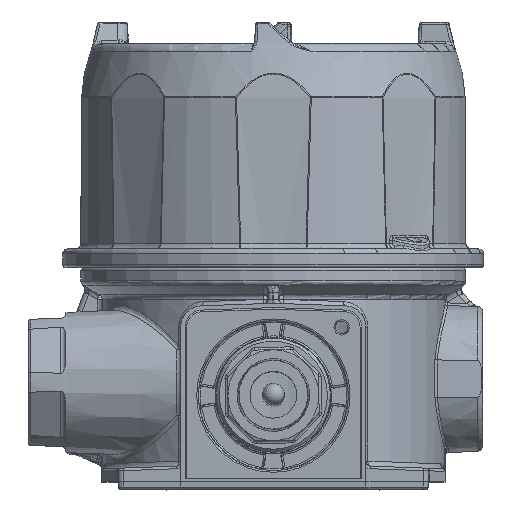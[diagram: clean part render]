
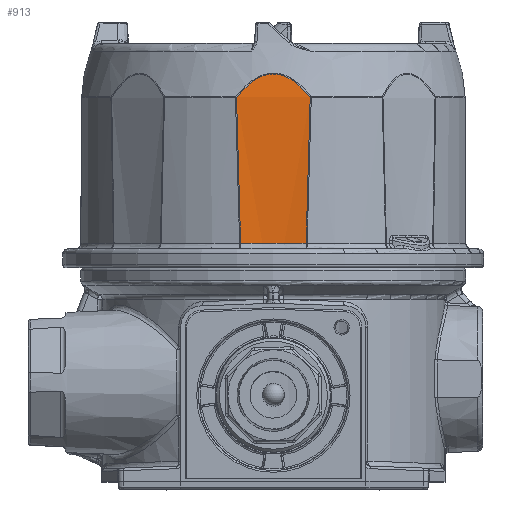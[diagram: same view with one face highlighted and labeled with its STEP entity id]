
A CAD part, top view. The second image highlights one B-rep face of the part: STEP entity #913.
In plain terms, the highlighted conical face has half-angle 0.5 degrees and reference radius 83.16 mm.
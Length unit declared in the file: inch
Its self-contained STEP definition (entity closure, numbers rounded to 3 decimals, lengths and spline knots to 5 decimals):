
#515 = CARTESIAN_POINT ( 'NONE',  ( -0.02303, 4.84485, 2.20639 ) ) ;
#645 = CIRCLE ( 'NONE', #44648, 3.25367 ) ;
#913 = ADVANCED_FACE ( 'NONE', ( #38391 ), #46001, .F. ) ;
#1543 = CARTESIAN_POINT ( 'NONE',  ( -0.39883, 3.43826, 2.24311 ) ) ;
#2126 = B_SPLINE_CURVE_WITH_KNOTS ( 'NONE', 3,
 ( #24983, #48991, #72929, #2937 ),
 .UNSPECIFIED., .F., .F.,
 ( 4, 4 ),
 ( 0., 0.00002 ),
 .UNSPECIFIED. ) ;
#2208 = DIRECTION ( 'NONE',  ( 0., 0., -1. ) ) ;
#2937 = CARTESIAN_POINT ( 'NONE',  ( -0.38206, 2.87145, 2.24611 ) ) ;
#3085 = ORIENTED_EDGE ( 'NONE', *, *, #53729, .T. ) ;
#3246 = CARTESIAN_POINT ( 'NONE',  ( -0.37362, 4.63765, 2.22946 ) ) ;
#3624 = ORIENTED_EDGE ( 'NONE', *, *, #26011, .T. ) ;
#4024 = CARTESIAN_POINT ( 'NONE',  ( -0.28008, 4.72908, 2.21921 ) ) ;
#5858 = VERTEX_POINT ( 'NONE', #31854 ) ;
#6436 = CARTESIAN_POINT ( 'NONE',  ( 0.05421, 4.84065, 2.20685 ) ) ;
#6817 = CARTESIAN_POINT ( 'NONE',  ( -0.10939, 4.82751, 2.2083 ) ) ;
#9983 = ORIENTED_EDGE ( 'NONE', *, *, #12356, .T. ) ;
#10029 = EDGE_CURVE ( 'NONE', #5858, #73823, #2126, .T. ) ;
#10806 = CARTESIAN_POINT ( 'NONE',  ( 0.38207, 2.87205, 2.24611 ) ) ;
#12356 = EDGE_CURVE ( 'NONE', #17371, #76082, #34552, .T. ) ;
#12555 = VERTEX_POINT ( 'NONE', #47650 ) ;
#13099 = CARTESIAN_POINT ( 'NONE',  ( -0.17008, 4.8019, 2.21112 ) ) ;
#13882 = CARTESIAN_POINT ( 'NONE',  ( 0.27897, 4.72997, 2.21911 ) ) ;
#15440 = CARTESIAN_POINT ( 'NONE',  ( -0.42941, 4.57016, 2.23711 ) ) ;
#15489 = CARTESIAN_POINT ( 'NONE',  ( 0.42941, 4.57016, 2.23711 ) ) ;
#17371 = VERTEX_POINT ( 'NONE', #15489 ) ;
#18609 = CARTESIAN_POINT ( 'NONE',  ( -0.04485, 4.84258, 2.20664 ) ) ;
#19009 = CARTESIAN_POINT ( 'NONE',  ( -0.15039, 4.81148, 2.21007 ) ) ;
#19630 = CARTESIAN_POINT ( 'NONE',  ( -0.4145, 4.0042, 2.24011 ) ) ;
#19787 = CARTESIAN_POINT ( 'NONE',  ( 0.16907, 4.80243, 2.21107 ) ) ;
#19915 = DIRECTION ( 'NONE',  ( 0., 1., 0. ) ) ;
#24983 = CARTESIAN_POINT ( 'NONE',  ( -0.38208, 2.87234, 2.2461 ) ) ;
#25304 = CARTESIAN_POINT ( 'NONE',  ( 0.20759, 4.78065, 2.21348 ) ) ;
#25531 = CARTESIAN_POINT ( 'NONE',  ( -0.38208, 2.87234, 2.2461 ) ) ;
#25572 = B_SPLINE_CURVE_WITH_KNOTS ( 'NONE', 3,
 ( #47382, #54451, #10806, #35960 ),
 .UNSPECIFIED., .F., .F.,
 ( 4, 4 ),
 ( 0., 0.00002 ),
 .UNSPECIFIED. ) ;
#25685 = CARTESIAN_POINT ( 'NONE',  ( 0.42941, 4.57016, 2.23711 ) ) ;
#26011 = EDGE_CURVE ( 'NONE', #12555, #32094, #25572, .T. ) ;
#26074 = CARTESIAN_POINT ( 'NONE',  ( 0.08653, 4.83432, 2.20755 ) ) ;
#28008 = CARTESIAN_POINT ( 'NONE',  ( -0.31254, 4.69988, 2.22247 ) ) ;
#28034 = CARTESIAN_POINT ( 'NONE',  ( 0., 5.201, 5.47727 ) ) ;
#28844 = ORIENTED_EDGE ( 'NONE', *, *, #58950, .T. ) ;
#29639 = DIRECTION ( 'NONE',  ( 0., 0., -1. ) ) ;
#29646 = CARTESIAN_POINT ( 'NONE',  ( 0.39883, 3.43826, 2.24311 ) ) ;
#29829 = B_SPLINE_CURVE_WITH_KNOTS ( 'NONE', 3,
 ( #59169, #29646, #64284, #34015 ),
 .UNSPECIFIED., .F., .F.,
 ( 4, 4 ),
 ( 0., 0.04314 ),
 .UNSPECIFIED. ) ;
#30413 = CARTESIAN_POINT ( 'NONE',  ( 0.02129, 4.84441, 2.20643 ) ) ;
#31180 = CARTESIAN_POINT ( 'NONE',  ( 0.31159, 4.70079, 2.22237 ) ) ;
#31854 = CARTESIAN_POINT ( 'NONE',  ( -0.38208, 2.87234, 2.2461 ) ) ;
#32094 = VERTEX_POINT ( 'NONE', #39763 ) ;
#32622 = CARTESIAN_POINT ( 'NONE',  ( -0.38206, 2.87145, 2.24611 ) ) ;
#34015 = CARTESIAN_POINT ( 'NONE',  ( 0.42941, 4.57016, 2.23711 ) ) ;
#34552 = B_SPLINE_CURVE_WITH_KNOTS ( 'NONE', 3,
 ( #25685, #43786, #60315, #31180, #13882, #49692, #25304, #19787, #37885, #61857, #26074, #6436, #48914, #30413, #54424, #515, #18609, #60695, #6817, #19009, #13099, #43010, #37092, #4024, #28008, #3246, #38269, #15440 ),
 .UNSPECIFIED., .F., .F.,
 ( 4, 2, 2, 2, 2, 2, 2, 2, 2, 2, 2, 2, 2, 4 ),
 ( 0., 0.00336, 0.00673, 0.00841, 0.01009, 0.01177, 0.01261, 0.01345, 0.01514, 0.01682, 0.0185, 0.02018, 0.02355, 0.02691 ),
 .UNSPECIFIED. ) ;
#35960 = CARTESIAN_POINT ( 'NONE',  ( 0.38208, 2.87234, 2.2461 ) ) ;
#37092 = CARTESIAN_POINT ( 'NONE',  ( -0.22665, 4.76816, 2.21486 ) ) ;
#37885 = CARTESIAN_POINT ( 'NONE',  ( 0.14896, 4.81213, 2.20999 ) ) ;
#38269 = CARTESIAN_POINT ( 'NONE',  ( -0.40219, 4.60458, 2.2332 ) ) ;
#38391 = FACE_OUTER_BOUND ( 'NONE', #69190, .T. ) ;
#39763 = CARTESIAN_POINT ( 'NONE',  ( 0.38208, 2.87234, 2.2461 ) ) ;
#43010 = CARTESIAN_POINT ( 'NONE',  ( -0.20819, 4.78027, 2.21352 ) ) ;
#43786 = CARTESIAN_POINT ( 'NONE',  ( 0.40211, 4.60468, 2.23319 ) ) ;
#44648 = AXIS2_PLACEMENT_3D ( 'NONE', #53268, #77215, #29639 ) ;
#46001 = CONICAL_SURFACE ( 'NONE', #69823, 3.274, 0.009 ) ;
#46027 = ORIENTED_EDGE ( 'NONE', *, *, #69929, .T. ) ;
#47382 = CARTESIAN_POINT ( 'NONE',  ( 0.38206, 2.87145, 2.24611 ) ) ;
#47650 = CARTESIAN_POINT ( 'NONE',  ( 0.38206, 2.87145, 2.24611 ) ) ;
#48914 = CARTESIAN_POINT ( 'NONE',  ( 0.04332, 4.84226, 2.20667 ) ) ;
#48991 = CARTESIAN_POINT ( 'NONE',  ( -0.38207, 2.87205, 2.24611 ) ) ;
#49692 = CARTESIAN_POINT ( 'NONE',  ( 0.22595, 4.76863, 2.21481 ) ) ;
#53268 = CARTESIAN_POINT ( 'NONE',  ( 0., 2.87145, 5.47727 ) ) ;
#53729 = EDGE_CURVE ( 'NONE', #76082, #5858, #69773, .T. ) ;
#54424 = CARTESIAN_POINT ( 'NONE',  ( 0.01011, 4.84494, 2.20638 ) ) ;
#54451 = CARTESIAN_POINT ( 'NONE',  ( 0.38206, 2.87175, 2.24611 ) ) ;
#58950 = EDGE_CURVE ( 'NONE', #32094, #17371, #29829, .T. ) ;
#59169 = CARTESIAN_POINT ( 'NONE',  ( 0.38208, 2.87234, 2.2461 ) ) ;
#60315 = CARTESIAN_POINT ( 'NONE',  ( 0.37332, 4.63801, 2.22942 ) ) ;
#60695 = CARTESIAN_POINT ( 'NONE',  ( -0.08794, 4.83395, 2.20759 ) ) ;
#60923 = CARTESIAN_POINT ( 'NONE',  ( -0.42941, 4.57016, 2.23711 ) ) ;
#61857 = CARTESIAN_POINT ( 'NONE',  ( 0.10761, 4.8281, 2.20823 ) ) ;
#64284 = CARTESIAN_POINT ( 'NONE',  ( 0.4145, 4.0042, 2.24011 ) ) ;
#69190 = EDGE_LOOP ( 'NONE', ( #46027, #3624, #28844, #9983, #3085, #75289 ) ) ;
#69773 = B_SPLINE_CURVE_WITH_KNOTS ( 'NONE', 3,
 ( #60923, #19630, #1543, #25531 ),
 .UNSPECIFIED., .F., .F.,
 ( 4, 4 ),
 ( 0., 0.04314 ),
 .UNSPECIFIED. ) ;
#69823 = AXIS2_PLACEMENT_3D ( 'NONE', #28034, #19915, #2208 ) ;
#69929 = EDGE_CURVE ( 'NONE', #73823, #12555, #645, .T. ) ;
#72929 = CARTESIAN_POINT ( 'NONE',  ( -0.38206, 2.87175, 2.24611 ) ) ;
#73823 = VERTEX_POINT ( 'NONE', #32622 ) ;
#75000 = CARTESIAN_POINT ( 'NONE',  ( -0.42941, 4.57016, 2.23711 ) ) ;
#75289 = ORIENTED_EDGE ( 'NONE', *, *, #10029, .T. ) ;
#76082 = VERTEX_POINT ( 'NONE', #75000 ) ;
#77215 = DIRECTION ( 'NONE',  ( 0., -1., 0. ) ) ;
